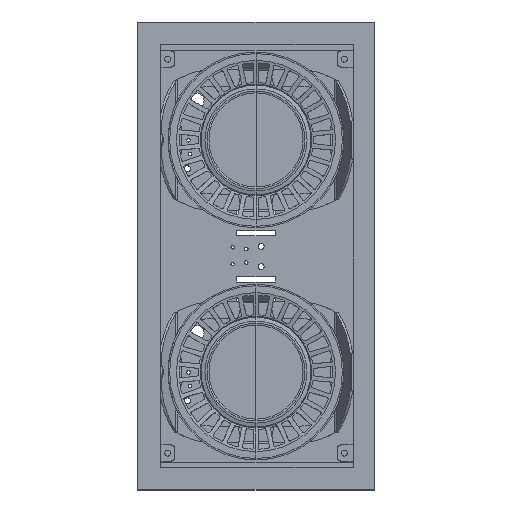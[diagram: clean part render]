
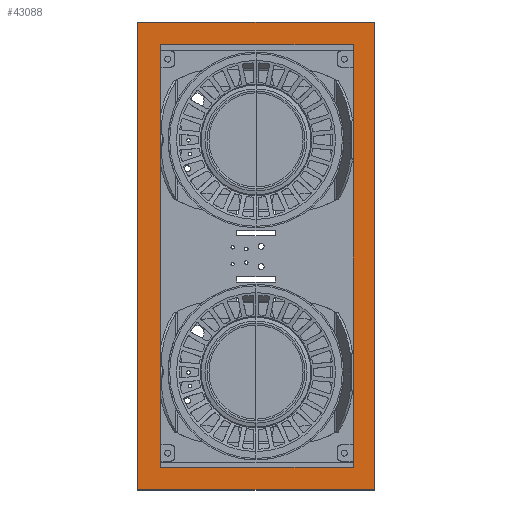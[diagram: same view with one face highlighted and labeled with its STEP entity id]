
A CAD part, top view. The second image highlights one B-rep face of the part: STEP entity #43088.
In plain terms, the highlighted planar face has unit normal (0, 0, 1).
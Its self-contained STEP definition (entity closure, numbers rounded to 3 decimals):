
#369=FACE_BOUND('',#8071,.T.);
#5435=FACE_OUTER_BOUND('',#8070,.T.);
#8070=EDGE_LOOP('',(#38129,#38130,#38131,#38132));
#8071=EDGE_LOOP('',(#38133,#38134,#38135,#38136));
#10802=LINE('',#79060,#13836);
#10806=LINE('',#79068,#13840);
#10809=LINE('',#79074,#13843);
#10812=LINE('',#79081,#13846);
#10816=LINE('',#79090,#13850);
#10820=LINE('',#79097,#13854);
#10824=LINE('',#79103,#13858);
#10825=LINE('',#79104,#13859);
#13836=VECTOR('',#57901,304.8);
#13840=VECTOR('',#57907,304.8);
#13843=VECTOR('',#57912,304.8);
#13846=VECTOR('',#57917,304.8);
#13850=VECTOR('',#57923,304.8);
#13854=VECTOR('',#57929,304.8);
#13858=VECTOR('',#57937,304.8);
#13859=VECTOR('',#57938,304.8);
#20070=VERTEX_POINT('',#79058);
#20071=VERTEX_POINT('',#79059);
#20074=VERTEX_POINT('',#79067);
#20076=VERTEX_POINT('',#79073);
#20078=VERTEX_POINT('',#79079);
#20079=VERTEX_POINT('',#79080);
#20082=VERTEX_POINT('',#79088);
#20083=VERTEX_POINT('',#79089);
#26181=EDGE_CURVE('',#20070,#20071,#10802,.T.);
#26185=EDGE_CURVE('',#20074,#20070,#10806,.T.);
#26188=EDGE_CURVE('',#20076,#20074,#10809,.T.);
#26191=EDGE_CURVE('',#20078,#20079,#10812,.T.);
#26195=EDGE_CURVE('',#20082,#20083,#10816,.T.);
#26199=EDGE_CURVE('',#20079,#20082,#10820,.T.);
#26203=EDGE_CURVE('',#20078,#20083,#10824,.T.);
#26204=EDGE_CURVE('',#20076,#20071,#10825,.T.);
#38129=ORIENTED_EDGE('',*,*,#26199,.T.);
#38130=ORIENTED_EDGE('',*,*,#26195,.T.);
#38131=ORIENTED_EDGE('',*,*,#26203,.F.);
#38132=ORIENTED_EDGE('',*,*,#26191,.T.);
#38133=ORIENTED_EDGE('',*,*,#26188,.T.);
#38134=ORIENTED_EDGE('',*,*,#26185,.T.);
#38135=ORIENTED_EDGE('',*,*,#26181,.T.);
#38136=ORIENTED_EDGE('',*,*,#26204,.F.);
#40782=PLANE('',#47349);
#43088=ADVANCED_FACE('',(#5435,#369),#40782,.T.);
#47349=AXIS2_PLACEMENT_3D('',#79102,#57935,#57936);
#57901=DIRECTION('',(0.,1.,0.));
#57907=DIRECTION('',(-1.,0.,0.));
#57912=DIRECTION('',(0.,-1.,0.));
#57917=DIRECTION('',(0.,1.,0.));
#57923=DIRECTION('',(0.,-1.,0.));
#57929=DIRECTION('',(-1.,0.,0.));
#57935=DIRECTION('center_axis',(0.,0.,1.));
#57936=DIRECTION('ref_axis',(-1.,0.,0.));
#57937=DIRECTION('',(-1.,0.,0.));
#57938=DIRECTION('',(-1.,0.,0.));
#79058=CARTESIAN_POINT('',(-70.,-155.,1.375));
#79059=CARTESIAN_POINT('',(-70.,155.,1.375));
#79060=CARTESIAN_POINT('',(-70.,-155.,1.375));
#79067=CARTESIAN_POINT('',(71.255,-155.,1.375));
#79068=CARTESIAN_POINT('',(71.255,-155.,1.375));
#79073=CARTESIAN_POINT('',(71.255,155.,1.375));
#79074=CARTESIAN_POINT('',(71.255,155.,1.375));
#79079=CARTESIAN_POINT('',(86.5,-171.5,1.375));
#79080=CARTESIAN_POINT('',(86.5,171.5,1.375));
#79081=CARTESIAN_POINT('',(86.5,-171.5,1.375));
#79088=CARTESIAN_POINT('',(-86.5,171.5,1.375));
#79089=CARTESIAN_POINT('',(-86.5,-171.5,1.375));
#79090=CARTESIAN_POINT('',(-86.5,171.5,1.375));
#79097=CARTESIAN_POINT('',(86.5,171.5,1.375));
#79102=CARTESIAN_POINT('Origin',(-86.5,171.5,1.375));
#79103=CARTESIAN_POINT('',(86.5,-171.5,1.375));
#79104=CARTESIAN_POINT('',(71.255,155.,1.375));
